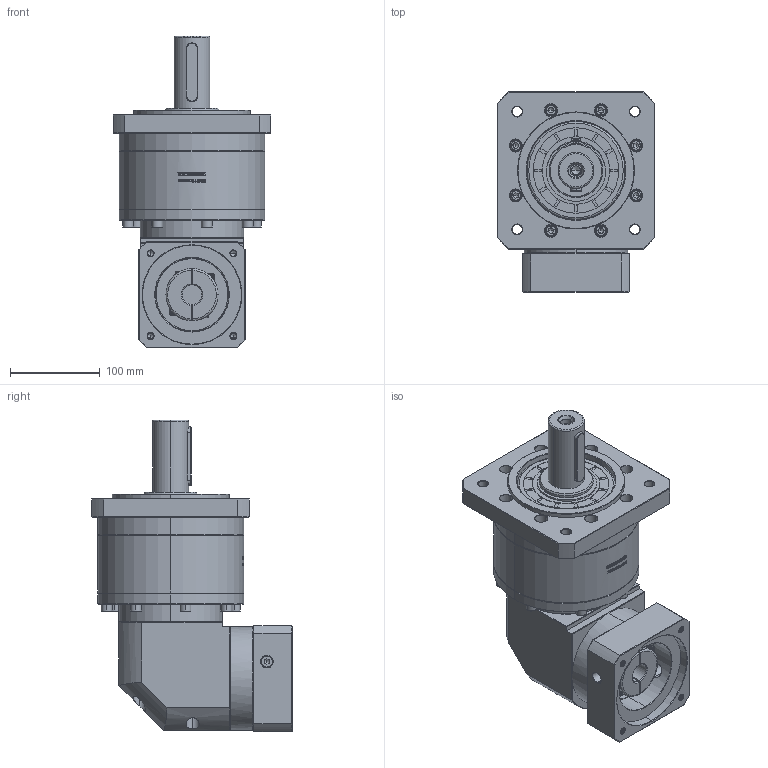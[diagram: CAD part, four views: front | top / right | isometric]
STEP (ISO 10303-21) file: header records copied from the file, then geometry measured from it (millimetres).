
FILE_DESCRIPTION (( 'STEP AP214' ), '1' );
FILE_NAME ('ZFR160A-D40-L2-22-110-130-M8.step', '2023-03-25T01:54:56', ( '' ), ( '' ), 'SwSTEP 2.0', 'SolidWorks 2016', '' );
FILE_SCHEMA (( 'AUTOMOTIVE_DESIGN' ));
Length unit declared in the file: millimetre
Products named in the file (1): ZFR160A-D40-L2-22-110-130-M8
Bounding box: 175 x 222.4 x 346.2 mm (x, y, z)
Volume: 5001982.9 mm3; surface area: 344617.4 mm2
Topology: 6 solids, 6 shells, 2784 faces, 7266 edges, 4655 vertices
Faces by surface type: plane 1373, bspline 498, cylinder 496, cone 371, torus 46
Entity records: 150230 total; most frequent: CARTESIAN_POINT 55602, ORIENTED_EDGE 14424, DIRECTION 11396, EDGE_CURVE 7212, VERTEX_POINT 4655, VECTOR 4502, LINE 4502, AXIS2_PLACEMENT_3D 3447
